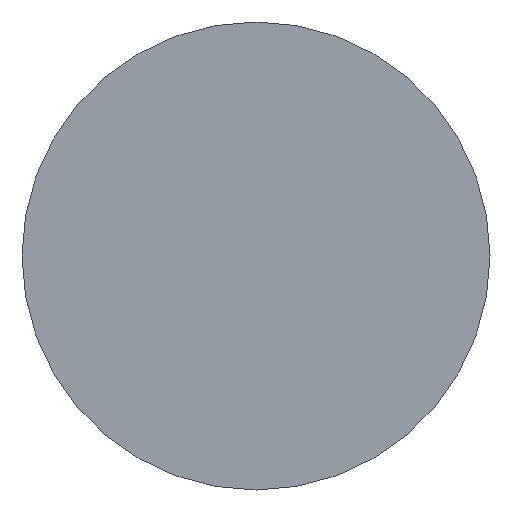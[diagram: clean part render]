
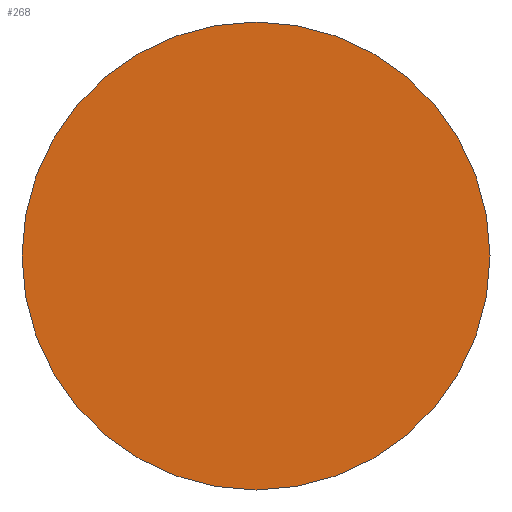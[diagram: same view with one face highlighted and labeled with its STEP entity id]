
A CAD part, left-side view. The second image highlights one B-rep face of the part: STEP entity #268.
In plain terms, the highlighted planar face has unit normal (-1, 0, 0).
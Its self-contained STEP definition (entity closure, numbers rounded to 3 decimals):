
#9 = DIRECTION ( 'NONE',  ( 1., 0., 0. ) ) ;
#21 = PLANE ( 'NONE',  #87 ) ;
#24 = CIRCLE ( 'NONE', #35, 5. ) ;
#30 = CARTESIAN_POINT ( 'NONE',  ( 0., 5., 0. ) ) ;
#32 = DIRECTION ( 'NONE',  ( -1., 0., 0. ) ) ;
#35 = AXIS2_PLACEMENT_3D ( 'NONE', #165, #9, #210 ) ;
#53 = CARTESIAN_POINT ( 'NONE',  ( 0., 0., 0. ) ) ;
#80 = CARTESIAN_POINT ( 'NONE',  ( 0., -5., 0. ) ) ;
#85 = ORIENTED_EDGE ( 'NONE', *, *, #100, .F. ) ;
#87 = AXIS2_PLACEMENT_3D ( 'NONE', #53, #32, #183 ) ;
#100 = EDGE_CURVE ( 'NONE', #155, #101, #24, .T. ) ;
#101 = VERTEX_POINT ( 'NONE', #80 ) ;
#112 = AXIS2_PLACEMENT_3D ( 'NONE', #261, #119, #138 ) ;
#119 = DIRECTION ( 'NONE',  ( 1., 0., 0. ) ) ;
#138 = DIRECTION ( 'NONE',  ( 0., 1., 0. ) ) ;
#139 = CIRCLE ( 'NONE', #112, 5. ) ;
#142 = ORIENTED_EDGE ( 'NONE', *, *, #250, .F. ) ;
#155 = VERTEX_POINT ( 'NONE', #30 ) ;
#165 = CARTESIAN_POINT ( 'NONE',  ( 0., 0., 0. ) ) ;
#183 = DIRECTION ( 'NONE',  ( 0., -1., 0. ) ) ;
#210 = DIRECTION ( 'NONE',  ( 0., 1., 0. ) ) ;
#217 = EDGE_LOOP ( 'NONE', ( #85, #142 ) ) ;
#224 = FACE_OUTER_BOUND ( 'NONE', #217, .T. ) ;
#250 = EDGE_CURVE ( 'NONE', #101, #155, #139, .T. ) ;
#261 = CARTESIAN_POINT ( 'NONE',  ( 0., 0., 0. ) ) ;
#268 = ADVANCED_FACE ( 'NONE', ( #224 ), #21, .T. ) ;
